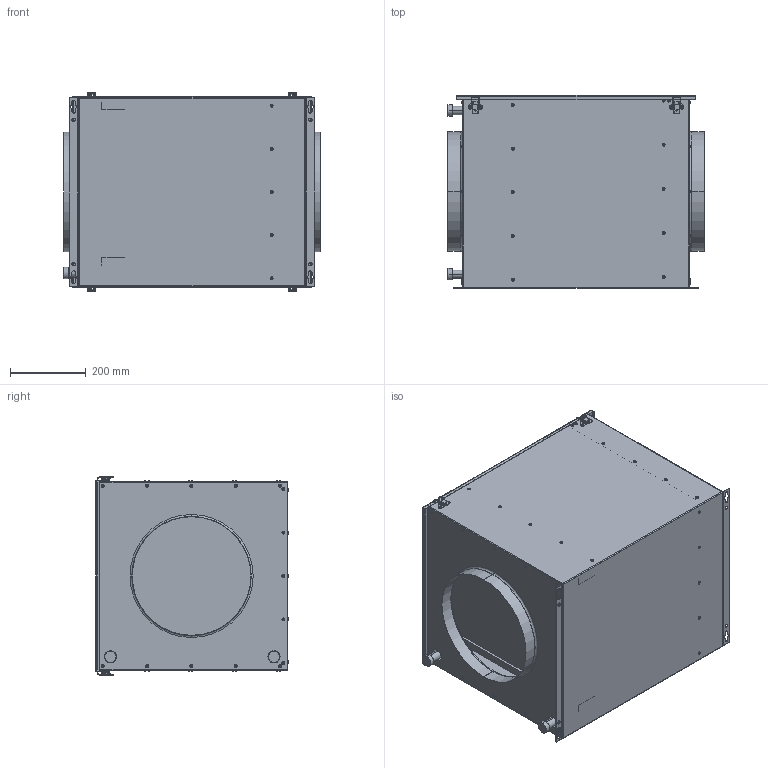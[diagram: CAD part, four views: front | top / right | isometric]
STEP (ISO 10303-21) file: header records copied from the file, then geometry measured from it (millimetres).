
FILE_DESCRIPTION (( 'STEP AP203' ), '1' );
FILE_NAME ('112855-00_FTW315_step.step', '2020-08-26T09:58:21', ( '' ), ( '' ), 'SwSTEP 2.0', 'SolidWorks 2017', '' );
FILE_SCHEMA (( 'CONFIG_CONTROL_DESIGN' ));
Length unit declared in the file: millimetre
Products named in the file (1): 112855-00_FTW315_step
Bounding box: 678 x 509.3 x 527.59 mm (x, y, z)
Surface area: 4381077.3 mm2 (no closed solid volume)
Topology: 0 solids, 110 shells, 744 faces, 2490 edges, 1742 vertices
Faces by surface type: cylinder 360, plane 190, torus 138, bspline 56
Entity records: 28991 total; most frequent: CARTESIAN_POINT 6736, DIRECTION 5196, ORIENTED_EDGE 3752, EDGE_CURVE 2490, AXIS2_PLACEMENT_3D 2081, VERTEX_POINT 1742, CIRCLE 1392, VECTOR 1034
